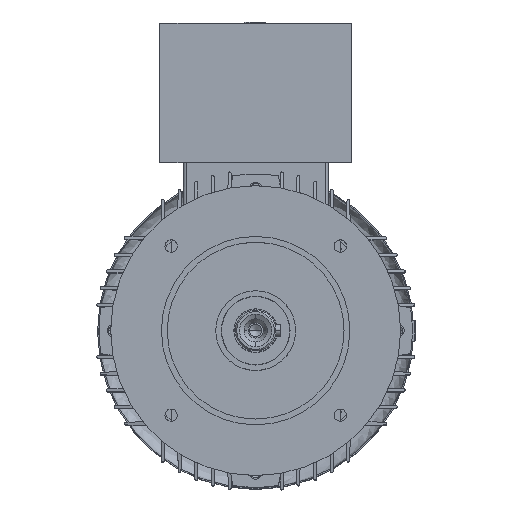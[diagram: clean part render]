
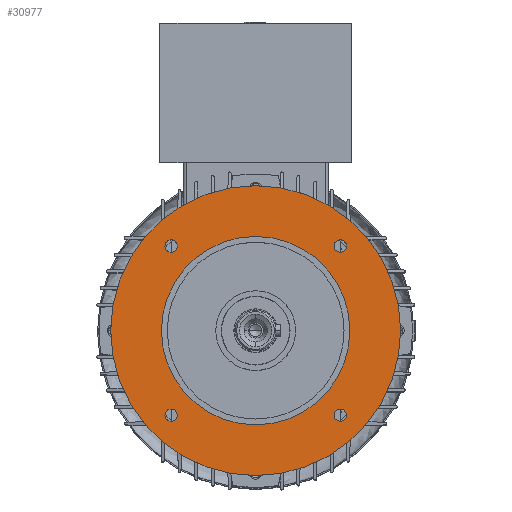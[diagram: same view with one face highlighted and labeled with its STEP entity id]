
A CAD part, top view. The second image highlights one B-rep face of the part: STEP entity #30977.
In plain terms, the highlighted planar face has unit normal (0, 0, 1).
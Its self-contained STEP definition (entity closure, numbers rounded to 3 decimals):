
#493 = CARTESIAN_POINT ( 'NONE',  ( 58.336, -58.336, 140. ) ) ;
#777 = ORIENTED_EDGE ( 'NONE', *, *, #14285, .F. ) ;
#860 = CARTESIAN_POINT ( 'NONE',  ( 0., 0., 140. ) ) ;
#965 = CARTESIAN_POINT ( 'NONE',  ( -58.336, -58.336, 140. ) ) ;
#1189 = DIRECTION ( 'NONE',  ( 0., 0., 1. ) ) ;
#1732 = DIRECTION ( 'NONE',  ( 0., 0., 1. ) ) ;
#1758 = ORIENTED_EDGE ( 'NONE', *, *, #27803, .F. ) ;
#1792 = AXIS2_PLACEMENT_3D ( 'NONE', #9336, #6368, #28231 ) ;
#2048 = DIRECTION ( 'NONE',  ( 1., 0., 0. ) ) ;
#2089 = AXIS2_PLACEMENT_3D ( 'NONE', #33667, #8974, #22441 ) ;
#2309 = EDGE_LOOP ( 'NONE', ( #777, #1758 ) ) ;
#2534 = CARTESIAN_POINT ( 'NONE',  ( 0., 0., 140. ) ) ;
#2555 = DIRECTION ( 'NONE',  ( -1., 0., 0. ) ) ;
#2664 = AXIS2_PLACEMENT_3D ( 'NONE', #7944, #16189, #32141 ) ;
#2819 = VERTEX_POINT ( 'NONE', #24344 ) ;
#3347 = DIRECTION ( 'NONE',  ( 1., 0., 0. ) ) ;
#3785 = CARTESIAN_POINT ( 'NONE',  ( -54.086, 58.336, 140. ) ) ;
#3868 = AXIS2_PLACEMENT_3D ( 'NONE', #34789, #4642, #23798 ) ;
#4642 = DIRECTION ( 'NONE',  ( 0., 0., 1. ) ) ;
#5914 = EDGE_LOOP ( 'NONE', ( #13813, #29372 ) ) ;
#6368 = DIRECTION ( 'NONE',  ( 0., 0., 1. ) ) ;
#6437 = CARTESIAN_POINT ( 'NONE',  ( 54.086, -58.336, 140. ) ) ;
#6586 = VERTEX_POINT ( 'NONE', #33661 ) ;
#6840 = VERTEX_POINT ( 'NONE', #8133 ) ;
#7603 = PLANE ( 'NONE',  #11629 ) ;
#7944 = CARTESIAN_POINT ( 'NONE',  ( 58.336, 58.336, 140. ) ) ;
#7955 = DIRECTION ( 'NONE',  ( 1., 0., 0. ) ) ;
#8133 = CARTESIAN_POINT ( 'NONE',  ( -62.586, -58.336, 140. ) ) ;
#8174 = CIRCLE ( 'NONE', #31119, 4.25 ) ;
#8651 = VERTEX_POINT ( 'NONE', #3785 ) ;
#8706 = AXIS2_PLACEMENT_3D ( 'NONE', #14642, #1189, #14750 ) ;
#8845 = CARTESIAN_POINT ( 'NONE',  ( 62.586, 58.336, 140. ) ) ;
#8974 = DIRECTION ( 'NONE',  ( 0., 0., 1. ) ) ;
#9023 = FACE_BOUND ( 'NONE', #28102, .T. ) ;
#9336 = CARTESIAN_POINT ( 'NONE',  ( 58.336, 58.336, 140. ) ) ;
#10194 = CIRCLE ( 'NONE', #2089, 4.25 ) ;
#10641 = CIRCLE ( 'NONE', #17359, 65. ) ;
#11000 = DIRECTION ( 'NONE',  ( 1., 0., 0. ) ) ;
#11236 = AXIS2_PLACEMENT_3D ( 'NONE', #20612, #1732, #20829 ) ;
#11629 = AXIS2_PLACEMENT_3D ( 'NONE', #15880, #15988, #2555 ) ;
#12033 = ORIENTED_EDGE ( 'NONE', *, *, #31195, .F. ) ;
#12048 = EDGE_CURVE ( 'NONE', #2819, #6586, #10641, .T. ) ;
#12902 = VERTEX_POINT ( 'NONE', #33518 ) ;
#13689 = CIRCLE ( 'NONE', #2664, 4.25 ) ;
#13813 = ORIENTED_EDGE ( 'NONE', *, *, #12048, .F. ) ;
#13965 = EDGE_LOOP ( 'NONE', ( #21988, #23204 ) ) ;
#14285 = EDGE_CURVE ( 'NONE', #8651, #14433, #10194, .T. ) ;
#14430 = DIRECTION ( 'NONE',  ( 0., 0., -1. ) ) ;
#14433 = VERTEX_POINT ( 'NONE', #34242 ) ;
#14546 = CIRCLE ( 'NONE', #1792, 4.25 ) ;
#14642 = CARTESIAN_POINT ( 'NONE',  ( -58.336, 58.336, 140. ) ) ;
#14750 = DIRECTION ( 'NONE',  ( 1., 0., 0. ) ) ;
#14955 = VERTEX_POINT ( 'NONE', #6437 ) ;
#15360 = FACE_OUTER_BOUND ( 'NONE', #27108, .T. ) ;
#15880 = CARTESIAN_POINT ( 'NONE',  ( 0., 100., 140. ) ) ;
#15988 = DIRECTION ( 'NONE',  ( 0., 0., -1. ) ) ;
#16155 = VERTEX_POINT ( 'NONE', #8845 ) ;
#16189 = DIRECTION ( 'NONE',  ( 0., 0., 1. ) ) ;
#16215 = FACE_BOUND ( 'NONE', #2309, .T. ) ;
#16644 = VERTEX_POINT ( 'NONE', #22032 ) ;
#17359 = AXIS2_PLACEMENT_3D ( 'NONE', #2534, #21415, #7955 ) ;
#17871 = CIRCLE ( 'NONE', #8706, 4.25 ) ;
#18176 = DIRECTION ( 'NONE',  ( 0., 0., -1. ) ) ;
#18745 = FACE_BOUND ( 'NONE', #5914, .T. ) ;
#18959 = CIRCLE ( 'NONE', #3868, 4.25 ) ;
#19007 = VERTEX_POINT ( 'NONE', #21029 ) ;
#19034 = CIRCLE ( 'NONE', #11236, 65. ) ;
#19511 = DIRECTION ( 'NONE',  ( 0., 0., 1. ) ) ;
#20053 = CIRCLE ( 'NONE', #25932, 100. ) ;
#20396 = CARTESIAN_POINT ( 'NONE',  ( -54.086, -58.336, 140. ) ) ;
#20612 = CARTESIAN_POINT ( 'NONE',  ( 0., 0., 140. ) ) ;
#20829 = DIRECTION ( 'NONE',  ( 1., 0., 0. ) ) ;
#20971 = ORIENTED_EDGE ( 'NONE', *, *, #21171, .F. ) ;
#21029 = CARTESIAN_POINT ( 'NONE',  ( -100., 0., 140. ) ) ;
#21171 = EDGE_CURVE ( 'NONE', #19007, #12902, #20053, .T. ) ;
#21175 = AXIS2_PLACEMENT_3D ( 'NONE', #23866, #18176, #2048 ) ;
#21252 = ORIENTED_EDGE ( 'NONE', *, *, #23031, .F. ) ;
#21415 = DIRECTION ( 'NONE',  ( 0., 0., 1. ) ) ;
#21522 = EDGE_CURVE ( 'NONE', #22742, #16155, #13689, .T. ) ;
#21988 = ORIENTED_EDGE ( 'NONE', *, *, #26497, .F. ) ;
#22032 = CARTESIAN_POINT ( 'NONE',  ( 62.586, -58.336, 140. ) ) ;
#22136 = FACE_BOUND ( 'NONE', #29629, .T. ) ;
#22350 = DIRECTION ( 'NONE',  ( 1., 0., 0. ) ) ;
#22441 = DIRECTION ( 'NONE',  ( 1., 0., 0. ) ) ;
#22742 = VERTEX_POINT ( 'NONE', #33366 ) ;
#23031 = EDGE_CURVE ( 'NONE', #16644, #14955, #28716, .T. ) ;
#23083 = ORIENTED_EDGE ( 'NONE', *, *, #24153, .F. ) ;
#23204 = ORIENTED_EDGE ( 'NONE', *, *, #31148, .F. ) ;
#23798 = DIRECTION ( 'NONE',  ( 1., 0., 0. ) ) ;
#23866 = CARTESIAN_POINT ( 'NONE',  ( 0., 0., 140. ) ) ;
#24153 = EDGE_CURVE ( 'NONE', #16155, #22742, #14546, .T. ) ;
#24344 = CARTESIAN_POINT ( 'NONE',  ( 65., 0., 140. ) ) ;
#25470 = AXIS2_PLACEMENT_3D ( 'NONE', #965, #19511, #3347 ) ;
#25932 = AXIS2_PLACEMENT_3D ( 'NONE', #860, #14430, #33250 ) ;
#26235 = AXIS2_PLACEMENT_3D ( 'NONE', #29904, #32494, #11000 ) ;
#26497 = EDGE_CURVE ( 'NONE', #27330, #6840, #18959, .T. ) ;
#26796 = CIRCLE ( 'NONE', #25470, 4.25 ) ;
#27108 = EDGE_LOOP ( 'NONE', ( #33978, #20971 ) ) ;
#27330 = VERTEX_POINT ( 'NONE', #20396 ) ;
#27803 = EDGE_CURVE ( 'NONE', #14433, #8651, #17871, .T. ) ;
#27953 = EDGE_CURVE ( 'NONE', #12902, #19007, #31788, .T. ) ;
#28102 = EDGE_LOOP ( 'NONE', ( #21252, #12033 ) ) ;
#28231 = DIRECTION ( 'NONE',  ( 1., 0., 0. ) ) ;
#28716 = CIRCLE ( 'NONE', #26235, 4.25 ) ;
#29372 = ORIENTED_EDGE ( 'NONE', *, *, #31887, .F. ) ;
#29629 = EDGE_LOOP ( 'NONE', ( #23083, #30673 ) ) ;
#29904 = CARTESIAN_POINT ( 'NONE',  ( 58.336, -58.336, 140. ) ) ;
#30377 = DIRECTION ( 'NONE',  ( 0., 0., 1. ) ) ;
#30673 = ORIENTED_EDGE ( 'NONE', *, *, #21522, .F. ) ;
#30977 = ADVANCED_FACE ( 'NONE', ( #15360, #18745, #22136, #16215, #33983, #9023 ), #7603, .F. ) ;
#31119 = AXIS2_PLACEMENT_3D ( 'NONE', #493, #30377, #22350 ) ;
#31148 = EDGE_CURVE ( 'NONE', #6840, #27330, #26796, .T. ) ;
#31195 = EDGE_CURVE ( 'NONE', #14955, #16644, #8174, .T. ) ;
#31788 = CIRCLE ( 'NONE', #21175, 100. ) ;
#31887 = EDGE_CURVE ( 'NONE', #6586, #2819, #19034, .T. ) ;
#32141 = DIRECTION ( 'NONE',  ( 1., 0., 0. ) ) ;
#32494 = DIRECTION ( 'NONE',  ( 0., 0., 1. ) ) ;
#33250 = DIRECTION ( 'NONE',  ( 1., 0., 0. ) ) ;
#33366 = CARTESIAN_POINT ( 'NONE',  ( 54.086, 58.336, 140. ) ) ;
#33518 = CARTESIAN_POINT ( 'NONE',  ( 100., 0., 140. ) ) ;
#33661 = CARTESIAN_POINT ( 'NONE',  ( -65., 0., 140. ) ) ;
#33667 = CARTESIAN_POINT ( 'NONE',  ( -58.336, 58.336, 140. ) ) ;
#33978 = ORIENTED_EDGE ( 'NONE', *, *, #27953, .F. ) ;
#33983 = FACE_BOUND ( 'NONE', #13965, .T. ) ;
#34242 = CARTESIAN_POINT ( 'NONE',  ( -62.586, 58.336, 140. ) ) ;
#34789 = CARTESIAN_POINT ( 'NONE',  ( -58.336, -58.336, 140. ) ) ;
